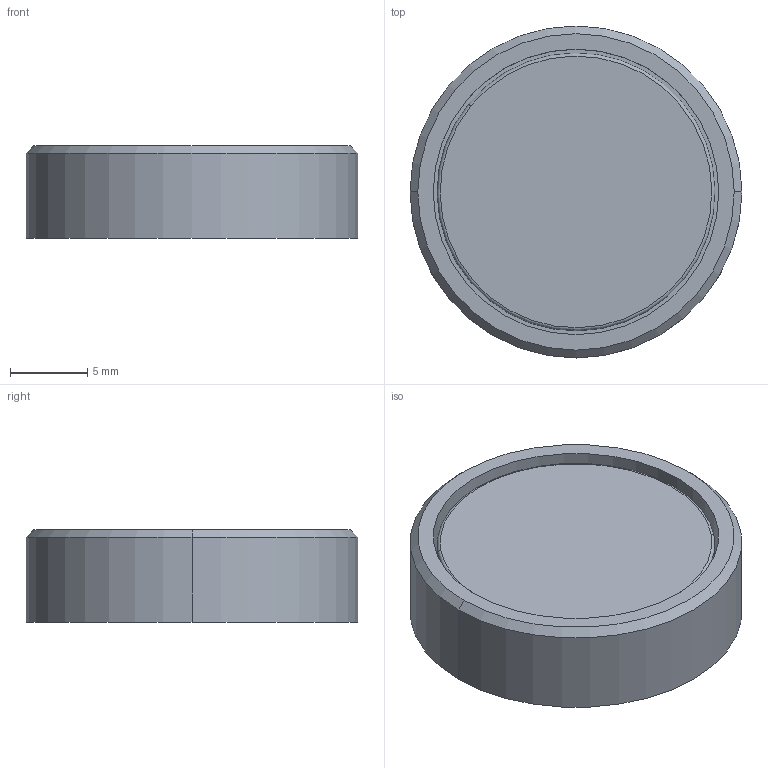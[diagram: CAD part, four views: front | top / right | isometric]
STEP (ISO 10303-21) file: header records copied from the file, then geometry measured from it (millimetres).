
FILE_DESCRIPTION (( 'STEP AP214' ), '1' );
FILE_NAME ('M612.STEP', '2021-12-30T13:14:59', ( '' ), ( '' ), 'SwSTEP 2.0', 'SolidWorks 2021', '' );
FILE_SCHEMA (( 'AUTOMOTIVE_DESIGN' ));
Length unit declared in the file: millimetre
Products named in the file (3): Corpo_0-15; MNDIAM018003x; M612
Assembly tree (2 placements, depth 2):
  M612
    Corpo_0-15
    MNDIAM018003x
Bounding box: 21.5 x 21.5 x 6 mm (x, y, z)
Volume: 1991.6 mm3; surface area: 1983.5 mm2
Topology: 2 solids, 2 shells, 17 faces, 30 edges, 18 vertices
Faces by surface type: cylinder 6, plane 5, torus 4, cone 2
Entity records: 528 total; most frequent: DIRECTION 96, CARTESIAN_POINT 70, ORIENTED_EDGE 60, AXIS2_PLACEMENT_3D 44, EDGE_CURVE 30, CIRCLE 22, VERTEX_POINT 18, EDGE_LOOP 18
